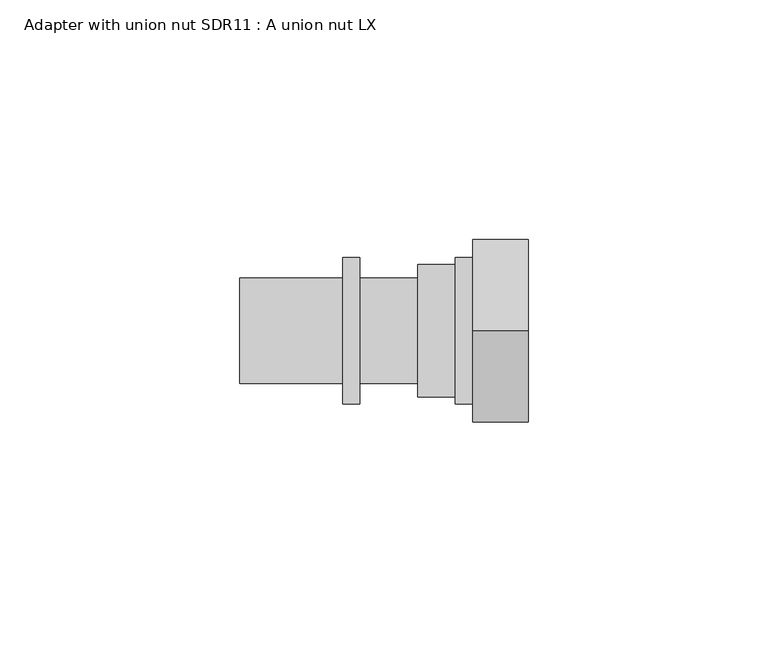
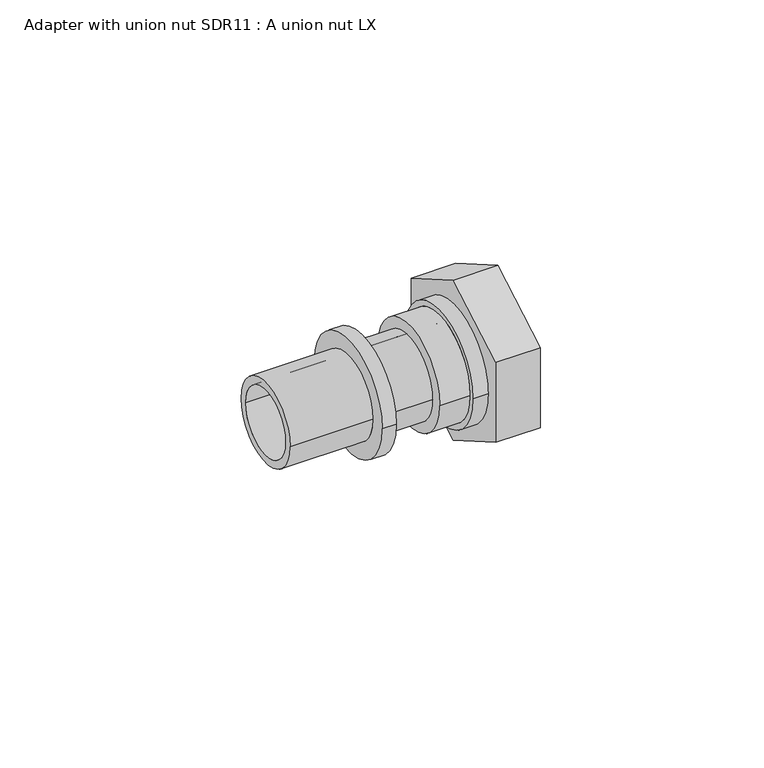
"""IFC4 building model written with IfcOpenShell, lengths in millimetres: pipe fitting geometry, Adapter with union nut SDR11 : A union nut LX."""

from ifc_helpers import new_model, si_unit, frame, origin, place, context, project, spatial, polyline, circle_curve, source, transform, mapped, element, save
from ifc_brep_helpers import plane_surface, cylinder_surface, revolved_surface, advanced_brep


def adapter_with_union_nut_sdr11_a_union_nut_lx_7cd68c92(model_context):
    return source(origin(), model_context, "Body", "AdvancedBrep", [
        advanced_brep(
        [(23.0, 15.3, 0.0), (23.0, -15.3, 0.0), (7.8, -15.3, 0.0), (7.8, 15.3, 0.0), (7.8, 13.8, 0.0), (7.8, -13.8, 0.0), (0.0, -13.8, 0.0), (0.0, 13.8, 0.0), (0.0, -8.9, 0.0), (0.0, 8.9, 0.0), (10.3, 13.8, 0.0), (10.3, -13.8, 0.0), (23.0, -13.8, 0.0), (23.0, 13.8, 0.0), (10.3, 8.9, 0.0), (10.3, -8.9, 0.0)],
        [
            (0, 1, circle_curve(frame((23.0, 0.0, 0.0), z_axis=(-1.0, 0.0, 0.0), x_axis=(0.0, -1.0, 0.0)), 15.3)),
            (1, 2),
            (2, 3, circle_curve(frame((7.8, 0.0, 0.0), z_axis=(1.0, 0.0, 0.0), x_axis=(0.0, -1.0, 0.0)), 15.3)),
            (3, 0),
            (4, 5, circle_curve(frame((7.8, 0.0, 0.0), z_axis=(-1.0, 0.0, 0.0), x_axis=(0.0, -1.0, 0.0)), 13.8)),
            (5, 6),
            (6, 7, circle_curve(frame((0.0, 0.0, 0.0), z_axis=(1.0, 0.0, 0.0), x_axis=(0.0, -1.0, 0.0)), 13.8)),
            (7, 4),
            (1, 0, circle_curve(frame((23.0, 0.0, 0.0), z_axis=(-1.0, 0.0, 0.0), x_axis=(0.0, 1.0, 0.0)), 15.3)),
            (3, 2, circle_curve(frame((7.8, 0.0, 0.0), z_axis=(1.0, 0.0, 0.0), x_axis=(0.0, 1.0, 0.0)), 15.3)),
            (6, 7, circle_curve(frame((0.0, 0.0, 0.0), z_axis=(-1.0, 0.0, 0.0), x_axis=(0.0, 1.0, 0.0)), 13.8)),
            (8, 9, circle_curve(frame((0.0, 0.0, 0.0), z_axis=(1.0, 0.0, 0.0), x_axis=(0.0, -1.0, 0.0)), 8.9)),
            (9, 8, circle_curve(frame((0.0, 0.0, 0.0), z_axis=(1.0, 0.0, 0.0), x_axis=(0.0, 1.0, 0.0)), 8.9)),
            (5, 4, circle_curve(frame((7.8, 0.0, 0.0), z_axis=(-1.0, 0.0, 0.0), x_axis=(0.0, 1.0, 0.0)), 13.8)),
            (10, 11, circle_curve(frame((10.3, 0.0, 0.0), z_axis=(-1.0, 0.0, 0.0), x_axis=(0.0, -1.0, 0.0)), 13.8)),
            (11, 12),
            (12, 13, circle_curve(frame((23.0, 0.0, 0.0), z_axis=(1.0, 0.0, 0.0), x_axis=(0.0, -1.0, 0.0)), 13.8)),
            (13, 10),
            (12, 13, circle_curve(frame((23.0, 0.0, 0.0), z_axis=(-1.0, 0.0, 0.0), x_axis=(0.0, 1.0, 0.0)), 13.8)),
            (11, 10, circle_curve(frame((10.3, 0.0, 0.0), z_axis=(-1.0, 0.0, 0.0), x_axis=(0.0, 1.0, 0.0)), 13.8)),
            (14, 15, circle_curve(frame((10.3, 0.0, 0.0), z_axis=(-1.0, 0.0, 0.0), x_axis=(0.0, -1.0, 0.0)), 8.9)),
            (15, 14, circle_curve(frame((10.3, 0.0, 0.0), z_axis=(-1.0, 0.0, 0.0), x_axis=(0.0, 1.0, 0.0)), 8.9)),
            (8, 15),
            (14, 9),
        ],
        [
            cylinder_surface(frame((0.0, 0.0, 0.0), z_axis=(1.0, 0.0, 0.0), x_axis=(0.0, -1.0, 0.0)), 15.3),
            cylinder_surface(frame((0.0, 0.0, 0.0), z_axis=(1.0, 0.0, 0.0), x_axis=(0.0, -1.0, 0.0)), 13.8),
            cylinder_surface(frame((0.0, 0.0, 0.0), z_axis=(1.0, 0.0, 0.0), x_axis=(0.0, 1.0, 0.0)), 15.3),
            plane_surface(frame((0.0, 0.0, 0.0), z_axis=(-1.0, 0.0, 0.0), x_axis=(0.0, 1.0, 0.0))),
            cylinder_surface(frame((0.0, 0.0, 0.0), z_axis=(1.0, 0.0, 0.0), x_axis=(0.0, 1.0, 0.0)), 13.8),
            plane_surface(frame((7.8, 0.0, 0.0), z_axis=(-1.0, 0.0, 0.0), x_axis=(0.0, 1.0, 0.0))),
            revolved_surface(polyline([(23.0, -13.8, 0.0), (10.3, -13.8, 0.0)]), (0.0, 0.0, 0.0), (1.0, 0.0, 0.0)),
            plane_surface(frame((23.0, 0.0, 0.0), z_axis=(1.0, 0.0, 0.0), x_axis=(0.0, 1.0, 0.0))),
            revolved_surface(polyline([(23.0, 13.8, 0.0), (10.3, 13.8, 0.0)]), (0.0, 0.0, 0.0), (1.0, 0.0, 0.0)),
            plane_surface(frame((10.3, 0.0, 0.0), z_axis=(1.0, 0.0, 0.0), x_axis=(0.0, 1.0, 0.0))),
            revolved_surface(polyline([(10.3, -8.9, 0.0), (0.0, -8.9, 0.0)]), (0.0, 0.0, 0.0), (1.0, 0.0, 0.0)),
            revolved_surface(polyline([(10.3, 8.9, 0.0), (0.0, 8.9, 0.0)]), (0.0, 0.0, 0.0), (1.0, 0.0, 0.0)),
        ],
        [
            (0, [[1, 2, 3, 4]]),
            (1, [[5, 6, 7, 8]]),
            (2, [[-2, 9, -4, 10]]),
            (3, [[-7, 11], [12, 13]]),
            (4, [[-6, 14, -8, -11]]),
            (5, [[-3, -10], [-5, -14]]),
            (6, [[15, 16, 17, 18]]),
            (7, [[-1, -9], [-17, 19]]),
            (8, [[-16, 20, -18, -19]]),
            (9, [[-15, -20], [21, 22]]),
            (10, [[-12, 23, -21, 24]]),
            (11, [[-23, -13, -24, -22]]),
        ],
    ),
        advanced_brep(
        [(23.0, -19.0, -10.9696551), (11.5, -19.0, -10.9696551), (11.5, 0.0, -21.9393102), (23.0, 0.0, -21.9393102), (11.5, 19.0, -10.9696551), (23.0, 19.0, -10.9696551), (11.5, 19.0, 10.9696551), (23.0, 19.0, 10.9696551), (11.5, 0.0, 21.9393102), (23.0, 0.0, 21.9393102), (11.5, -19.0, 10.9696551), (23.0, -19.0, 10.9696551), (11.5, -8.9, 0.0), (11.5, 8.9, 0.0), (23.0, 15.3, 0.0), (23.0, -15.3, 0.0), (17.25, 15.3, 0.0), (17.25, -15.3, 0.0), (17.25, 8.9, 0.0), (17.25, -8.9, 0.0)],
        [
            (0, 1),
            (1, 2),
            (2, 3),
            (3, 0),
            (2, 4),
            (4, 5),
            (5, 3),
            (4, 6),
            (6, 7),
            (7, 5),
            (6, 8),
            (8, 9),
            (9, 7),
            (8, 10),
            (10, 11),
            (11, 9),
            (1, 10),
            (12, 13, circle_curve(frame((11.5, 0.0, 0.0), z_axis=(1.0, 0.0, 0.0), x_axis=(0.0, -1.0, 0.0)), 8.9)),
            (13, 12, circle_curve(frame((11.5, 0.0, 0.0), z_axis=(1.0, 0.0, 0.0), x_axis=(0.0, -1.0, 0.0)), 8.9)),
            (0, 11),
            (14, 15, circle_curve(frame((23.0, 0.0, 0.0), z_axis=(-1.0, 0.0, 0.0), x_axis=(0.0, -1.0, 0.0)), 15.3)),
            (15, 14, circle_curve(frame((23.0, 0.0, 0.0), z_axis=(-1.0, 0.0, 0.0), x_axis=(0.0, -1.0, 0.0)), 15.3)),
            (16, 17, circle_curve(frame((17.25, 0.0, 0.0), z_axis=(1.0, 0.0, 0.0), x_axis=(0.0, -1.0, 0.0)), 15.3)),
            (17, 16, circle_curve(frame((17.25, 0.0, 0.0), z_axis=(1.0, 0.0, 0.0), x_axis=(0.0, -1.0, 0.0)), 15.3)),
            (18, 19, circle_curve(frame((17.25, 0.0, 0.0), z_axis=(-1.0, 0.0, 0.0), x_axis=(0.0, -1.0, 0.0)), 8.9)),
            (19, 18, circle_curve(frame((17.25, 0.0, 0.0), z_axis=(-1.0, 0.0, 0.0), x_axis=(0.0, -1.0, 0.0)), 8.9)),
            (17, 15),
            (14, 16),
            (18, 13),
            (12, 19),
        ],
        [
            plane_surface(frame((11.5, -19.0, -10.9696551), z_axis=(0.0, -0.5000000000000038, -0.8660254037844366), x_axis=(0.0, 0.8660254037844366, -0.5000000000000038))),
            plane_surface(frame((11.5, 0.0, -21.9393102), z_axis=(0.0, 0.4999999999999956, -0.8660254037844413), x_axis=(0.0, 0.8660254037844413, 0.4999999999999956))),
            plane_surface(frame((11.5, 19.0, -10.9696551), z_axis=(0.0, 1.0, 0.0), x_axis=(0.0, 0.0, 1.0))),
            plane_surface(frame((11.5, 19.0, 10.9696551), z_axis=(0.0, 0.500000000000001, 0.8660254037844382), x_axis=(0.0, -0.8660254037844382, 0.500000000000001))),
            plane_surface(frame((11.5, 0.0, 21.9393102), z_axis=(0.0, -0.4999999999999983, 0.8660254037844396), x_axis=(0.0, -0.8660254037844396, -0.4999999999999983))),
            plane_surface(frame((11.5, 0.0, 0.0), z_axis=(-1.0, 0.0, 0.0), x_axis=(0.0, 0.0, -1.0))),
            plane_surface(frame((11.5, -19.0, 10.9696551), z_axis=(0.0, -1.0, 0.0), x_axis=(0.0, 0.0, -1.0))),
            plane_surface(frame((23.0, -19.0, 10.9696551), z_axis=(1.0, 0.0, 0.0), x_axis=(0.0, 0.0, -1.0))),
            plane_surface(frame((17.25, -15.3, 0.0), z_axis=(1.0, 0.0, 0.0), x_axis=(0.0, 0.0, 1.0))),
            revolved_surface(polyline([(17.25, -15.3, 0.0), (23.0, -15.3, 0.0)]), (45.0991925, 0.0, 0.0), (-1.0, 0.0, 0.0)),
            revolved_surface(polyline([(11.5, -8.9, 0.0), (17.25, -8.9, 0.0)]), (17.25, 0.0, 0.0), (-1.0, 0.0, 0.0)),
        ],
        [
            (0, [[1, 2, 3, 4]]),
            (1, [[-3, 5, 6, 7]]),
            (2, [[-6, 8, 9, 10]]),
            (3, [[-9, 11, 12, 13]]),
            (4, [[-12, 14, 15, 16]]),
            (5, [[-2, 17, -14, -11, -8, -5], [18, 19]]),
            (6, [[-1, 20, -15, -17]]),
            (7, [[-4, -7, -10, -13, -16, -20], [21, 22]]),
            (8, [[23, 24], [25, 26]]),
            (9, [[-24, 27, -21, 28]]),
            (9, [[-23, -28, -22, -27]]),
            (10, [[29, -18, 30, -25]]),
            (10, [[-29, -26, -30, -19]]),
        ],
    ),
        advanced_brep(
        [(-15.7, 11.0, 0.0), (-15.7, -11.0, 0.0), (-37.1, -11.0, 0.0), (-37.1, 11.0, 0.0), (-12.1, 15.25, 0.0), (-12.1, -15.25, 0.0), (-15.7, -15.25, 0.0), (-15.7, 15.25, 0.0), (0.0, 11.0, 0.0), (0.0, -11.0, 0.0), (-12.1, -11.0, 0.0), (-12.1, 11.0, 0.0), (-37.1, 8.9, 0.0), (-37.1, -8.9, 0.0), (-15.7, -8.9, 0.0), (0.0, -8.9, 0.0), (0.0, 8.9, 0.0), (-15.7, 8.9, 0.0)],
        [
            (0, 1, circle_curve(frame((-15.7, 0.0, 0.0), z_axis=(-1.0, 0.0, 0.0), x_axis=(0.0, -1.0, 0.0)), 11.0)),
            (1, 2),
            (2, 3, circle_curve(frame((-37.1, 0.0, 0.0), z_axis=(1.0, 0.0, 0.0), x_axis=(0.0, -1.0, 0.0)), 11.0)),
            (3, 0),
            (4, 5, circle_curve(frame((-12.1, 0.0, 0.0), z_axis=(-1.0, 0.0, 0.0), x_axis=(0.0, -1.0, 0.0)), 15.25)),
            (5, 6),
            (6, 7, circle_curve(frame((-15.7, 0.0, 0.0), z_axis=(1.0, 0.0, 0.0), x_axis=(0.0, -1.0, 0.0)), 15.25)),
            (7, 4),
            (8, 9, circle_curve(frame((0.0, 0.0, 0.0), z_axis=(-1.0, 0.0, 0.0), x_axis=(0.0, -1.0, 0.0)), 11.0)),
            (9, 10),
            (10, 11, circle_curve(frame((-12.1, 0.0, 0.0), z_axis=(1.0, 0.0, 0.0), x_axis=(0.0, -1.0, 0.0)), 11.0)),
            (11, 8),
            (12, 13, circle_curve(frame((-37.1, 0.0, 0.0), z_axis=(-1.0, 0.0, 0.0), x_axis=(0.0, -1.0, 0.0)), 8.9)),
            (13, 14),
            (14, 15),
            (15, 16, circle_curve(frame((0.0, 0.0, 0.0), z_axis=(1.0, 0.0, 0.0), x_axis=(0.0, -1.0, 0.0)), 8.9)),
            (16, 17),
            (17, 12),
            (2, 3, circle_curve(frame((-37.1, 0.0, 0.0), z_axis=(-1.0, 0.0, 0.0), x_axis=(0.0, 1.0, 0.0)), 11.0)),
            (12, 13, circle_curve(frame((-37.1, 0.0, 0.0), z_axis=(1.0, 0.0, 0.0), x_axis=(0.0, 1.0, 0.0)), 8.9)),
            (1, 0, circle_curve(frame((-15.7, 0.0, 0.0), z_axis=(-1.0, 0.0, 0.0), x_axis=(0.0, 1.0, 0.0)), 11.0)),
            (6, 7, circle_curve(frame((-15.7, 0.0, 0.0), z_axis=(-1.0, 0.0, 0.0), x_axis=(0.0, 1.0, 0.0)), 15.25)),
            (5, 4, circle_curve(frame((-12.1, 0.0, 0.0), z_axis=(-1.0, 0.0, 0.0), x_axis=(0.0, 1.0, 0.0)), 15.25)),
            (10, 11, circle_curve(frame((-12.1, 0.0, 0.0), z_axis=(-1.0, 0.0, 0.0), x_axis=(0.0, 1.0, 0.0)), 11.0)),
            (9, 8, circle_curve(frame((0.0, 0.0, 0.0), z_axis=(-1.0, 0.0, 0.0), x_axis=(0.0, 1.0, 0.0)), 11.0)),
            (15, 16, circle_curve(frame((0.0, 0.0, 0.0), z_axis=(-1.0, 0.0, 0.0), x_axis=(0.0, 1.0, 0.0)), 8.9)),
        ],
        [
            cylinder_surface(frame((0.0, 0.0, 0.0), z_axis=(1.0, 0.0, 0.0), x_axis=(0.0, -1.0, 0.0)), 11.0),
            cylinder_surface(frame((0.0, 0.0, 0.0), z_axis=(1.0, 0.0, 0.0), x_axis=(0.0, -1.0, 0.0)), 15.25),
            revolved_surface(polyline([(0.0, -8.9, 0.0), (-37.1, -8.9, 0.0)]), (0.0, 0.0, 0.0), (1.0, 0.0, 0.0)),
            plane_surface(frame((-37.1, 0.0, 0.0), z_axis=(-1.0, 0.0, 0.0), x_axis=(0.0, 1.0, 0.0))),
            cylinder_surface(frame((0.0, 0.0, 0.0), z_axis=(1.0, 0.0, 0.0), x_axis=(0.0, 1.0, 0.0)), 11.0),
            plane_surface(frame((-15.7, 0.0, 0.0), z_axis=(-1.0, 0.0, 0.0), x_axis=(0.0, 1.0, 0.0))),
            cylinder_surface(frame((0.0, 0.0, 0.0), z_axis=(1.0, 0.0, 0.0), x_axis=(0.0, 1.0, 0.0)), 15.25),
            plane_surface(frame((-12.1, 0.0, 0.0), z_axis=(1.0, 0.0, 0.0), x_axis=(0.0, 1.0, 0.0))),
            plane_surface(frame((0.0, 0.0, 0.0), z_axis=(1.0, 0.0, 0.0), x_axis=(0.0, 1.0, 0.0))),
            revolved_surface(polyline([(0.0, 8.9, 0.0), (-37.1, 8.9, 0.0)]), (0.0, 0.0, 0.0), (1.0, 0.0, 0.0)),
        ],
        [
            (0, [[1, 2, 3, 4]]),
            (1, [[5, 6, 7, 8]]),
            (0, [[9, 10, 11, 12]]),
            (2, [[13, 14, 15, 16, 17, 18]]),
            (3, [[-3, 19], [-13, 20]]),
            (4, [[-2, 21, -4, -19]]),
            (5, [[-7, 22], [-1, -21]]),
            (6, [[-6, 23, -8, -22]]),
            (7, [[-5, -23], [-11, 24]]),
            (4, [[-10, 25, -12, -24]]),
            (8, [[-9, -25], [-16, 26]]),
            (9, [[-20, -18, -17, -26, -15, -14]]),
        ],
    ),
    ])


if __name__ == "__main__":
    model = new_model("IFC4")
    model_context = context("Model", 3, world=origin())
    ifc_project = project(units=[si_unit("LENGTHUNIT", "METRE", prefix="MILLI")], contexts=[model_context])
    site = spatial("IfcSite", under=ifc_project)
    building = spatial("IfcBuilding", under=site)
    placement = place(None, origin())
    adapter_with_union_nut_sdr11_a_union_nut_lx_shape = adapter_with_union_nut_sdr11_a_union_nut_lx_7cd68c92(model_context)
    element("IfcPipeFitting", 1, ObjectType="Adapter with union nut SDR11 : A union nut LX", at=placement, inside=building, context=model_context, shape_type="MappedRepresentation", body=[
        mapped(adapter_with_union_nut_sdr11_a_union_nut_lx_shape, transform((0.0, 0.0, 0.0), x_axis=(1.0, 0.0, 0.0), y_axis=(0.0, 1.0, 0.0), z_axis=(0.0, 0.0, 1.0))),
    ])
    save(model, "model.ifc")
